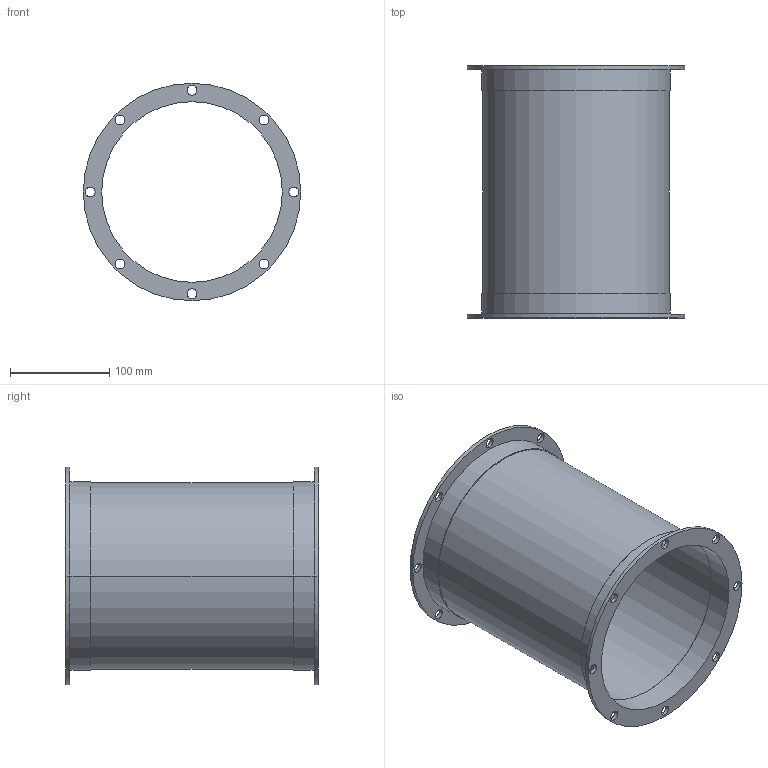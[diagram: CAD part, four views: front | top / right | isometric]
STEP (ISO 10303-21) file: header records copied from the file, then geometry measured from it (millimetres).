
FILE_DESCRIPTION(('STEP AP214'),'1');
FILE_NAME('accessory_5136831400.stp','2017-05-25T04:23:53',('TraceParts'),('TraceParts S.A.'),'Spatial InterOp 3D',' ',' ');
FILE_SCHEMA(('automotive_design'));
Length unit declared in the file: millimetre
Products named in the file (1): accessory_5136831400
Bounding box: 219 x 254 x 219 mm (x, y, z)
Volume: 424774.7 mm3; surface area: 341343.5 mm2
Topology: 1 solids, 1 shells, 56 faces, 144 edges, 96 vertices
Faces by surface type: cylinder 48, plane 8
Entity records: 2296 total; most frequent: DIRECTION 354, CARTESIAN_POINT 297, ORIENTED_EDGE 288, AXIS2_PLACEMENT_3D 153, EDGE_CURVE 144, EDGE_LOOP 96, VERTEX_POINT 96, CIRCLE 96
